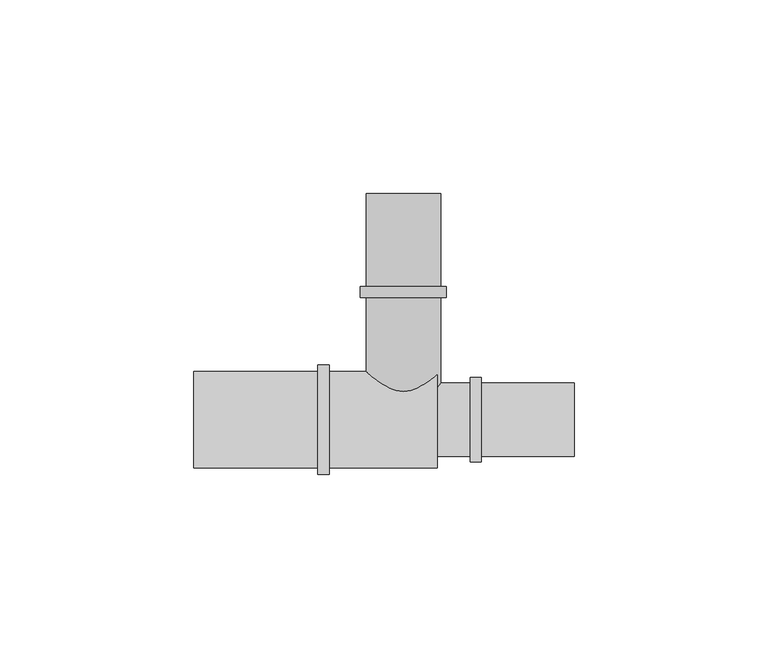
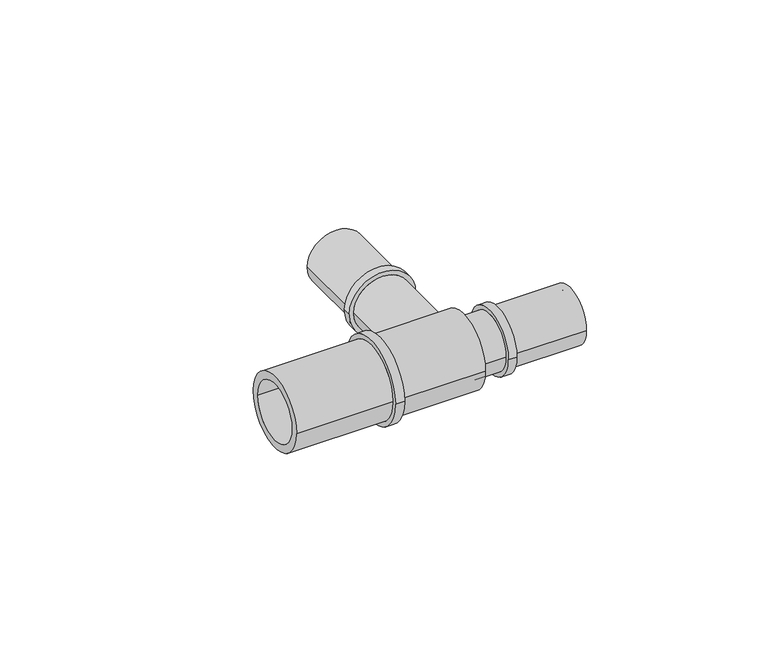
"""IFC4 building model written with IfcOpenShell, lengths in millimetres: pipe fitting geometry, FASTLOC_T-piece_LX : FSL T-Piece LX PL."""

from ifc_helpers import new_model, si_unit, frame, origin, place, context, project, spatial, polyline, circle_curve, source, transform, mapped, element, save
from ifc_brep_helpers import plane_surface, cylinder_surface, revolved_surface, advanced_brep


def pipe_fitting_291f5afb(model_context):
    return source(origin(), model_context, "Body", "AdvancedBrep", [
        advanced_brep(
        [(7.35, 58.4, 0.0), (-7.35, 58.4, 0.0), (-7.35, 0.0, 0.0), (7.35, 0.0, 0.0), (9.6, 0.0, 0.0), (-9.6, 0.0, 0.0), (-9.6, 31.6, 0.0), (9.6, 31.6, 0.0), (11.1, 31.6, 0.0), (-11.1, 31.6, 0.0), (-11.1, 34.4, 0.0), (11.1, 34.4, 0.0), (9.6, 34.4, 0.0), (-9.6, 34.4, 0.0), (-9.6, 58.4, 0.0), (9.6, 58.4, 0.0)],
        [
            (0, 1, circle_curve(frame((0.0, 58.4, 0.0), z_axis=(0.0, 1.0, 0.0), x_axis=(-1.0, 0.0, 0.0)), 7.35)),
            (1, 2),
            (2, 3, circle_curve(frame((0.0, 0.0, 0.0), z_axis=(0.0, -1.0, 0.0), x_axis=(-1.0, 0.0, 0.0)), 7.35)),
            (3, 0),
            (4, 5, circle_curve(frame((0.0, 0.0, 0.0), z_axis=(0.0, 1.0, 0.0), x_axis=(-1.0, 0.0, 0.0)), 9.6)),
            (5, 6),
            (6, 7, circle_curve(frame((0.0, 31.6, 0.0), z_axis=(0.0, -1.0, 0.0), x_axis=(-1.0, 0.0, 0.0)), 9.6)),
            (7, 4),
            (8, 9, circle_curve(frame((0.0, 31.6, 0.0), z_axis=(0.0, 1.0, 0.0), x_axis=(-1.0, 0.0, 0.0)), 11.1)),
            (9, 10),
            (10, 11, circle_curve(frame((0.0, 34.4, 0.0), z_axis=(0.0, -1.0, 0.0), x_axis=(-1.0, 0.0, 0.0)), 11.1)),
            (11, 8),
            (12, 13, circle_curve(frame((0.0, 34.4, 0.0), z_axis=(0.0, 1.0, 0.0), x_axis=(-1.0, 0.0, 0.0)), 9.6)),
            (13, 14),
            (14, 15, circle_curve(frame((0.0, 58.4, 0.0), z_axis=(0.0, -1.0, 0.0), x_axis=(-1.0, 0.0, 0.0)), 9.6)),
            (15, 12),
            (1, 0, circle_curve(frame((0.0, 58.4, 0.0), z_axis=(0.0, 1.0, 0.0), x_axis=(1.0, 0.0, 0.0)), 7.35)),
            (3, 2, circle_curve(frame((0.0, 0.0, 0.0), z_axis=(0.0, -1.0, 0.0), x_axis=(1.0, 0.0, 0.0)), 7.35)),
            (4, 5, circle_curve(frame((0.0, 0.0, 0.0), z_axis=(0.0, -1.0, 0.0), x_axis=(1.0, 0.0, 0.0)), 9.6)),
            (7, 6, circle_curve(frame((0.0, 31.6, 0.0), z_axis=(0.0, -1.0, 0.0), x_axis=(1.0, 0.0, 0.0)), 9.6)),
            (8, 9, circle_curve(frame((0.0, 31.6, 0.0), z_axis=(0.0, -1.0, 0.0), x_axis=(1.0, 0.0, 0.0)), 11.1)),
            (11, 10, circle_curve(frame((0.0, 34.4, 0.0), z_axis=(0.0, -1.0, 0.0), x_axis=(1.0, 0.0, 0.0)), 11.1)),
            (12, 13, circle_curve(frame((0.0, 34.4, 0.0), z_axis=(0.0, -1.0, 0.0), x_axis=(1.0, 0.0, 0.0)), 9.6)),
            (15, 14, circle_curve(frame((0.0, 58.4, 0.0), z_axis=(0.0, -1.0, 0.0), x_axis=(1.0, 0.0, 0.0)), 9.6)),
        ],
        [
            revolved_surface(polyline([(-7.35, 0.0, 0.0), (-7.35, 58.4, 0.0)]), (0.0, 0.0, 0.0), (0.0, -1.0, 0.0)),
            cylinder_surface(frame((0.0, 0.0, 0.0), z_axis=(0.0, -1.0, 0.0), x_axis=(-1.0, 0.0, 0.0)), 9.6),
            cylinder_surface(frame((0.0, 0.0, 0.0), z_axis=(0.0, -1.0, 0.0), x_axis=(-1.0, 0.0, 0.0)), 11.1),
            revolved_surface(polyline([(7.35, 0.0, 0.0), (7.35, 58.4, 0.0)]), (0.0, 0.0, 0.0), (0.0, -1.0, 0.0)),
            plane_surface(frame((0.0, 0.0, 0.0), z_axis=(0.0, -1.0, 0.0), x_axis=(1.0, 0.0, 0.0))),
            cylinder_surface(frame((0.0, 0.0, 0.0), z_axis=(0.0, -1.0, 0.0), x_axis=(1.0, 0.0, 0.0)), 9.6),
            plane_surface(frame((0.0, 31.6, 0.0), z_axis=(0.0, -1.0, 0.0), x_axis=(1.0, 0.0, 0.0))),
            cylinder_surface(frame((0.0, 0.0, 0.0), z_axis=(0.0, -1.0, 0.0), x_axis=(1.0, 0.0, 0.0)), 11.1),
            plane_surface(frame((0.0, 34.4, 0.0), z_axis=(0.0, 1.0, 0.0), x_axis=(1.0, 0.0, 0.0))),
            plane_surface(frame((0.0, 58.4, 0.0), z_axis=(0.0, 1.0, 0.0), x_axis=(1.0, 0.0, 0.0))),
        ],
        [
            (0, [[1, 2, 3, 4]]),
            (1, [[5, 6, 7, 8]]),
            (2, [[9, 10, 11, 12]]),
            (1, [[13, 14, 15, 16]]),
            (3, [[17, -4, 18, -2]]),
            (4, [[19, -5], [-18, -3]]),
            (5, [[-19, -8, 20, -6]]),
            (6, [[21, -9], [-20, -7]]),
            (7, [[-21, -12, 22, -10]]),
            (8, [[-22, -11], [23, -13]]),
            (5, [[-23, -16, 24, -14]]),
            (9, [[-24, -15], [-17, -1]]),
        ],
    ),
        advanced_brep(
        [(17.3, 9.45, 0.0), (17.3, -9.45, 0.0), (8.75, -9.45, 0.0), (8.75, 9.45, 0.0), (20.1, 10.95, 0.0), (20.1, -10.95, 0.0), (17.3, -10.95, 0.0), (17.3, 10.95, 0.0), (44.1, 9.45, 0.0), (44.1, -9.45, 0.0), (20.1, -9.45, 0.0), (20.1, 9.45, 0.0), (6.5, 7.2, 0.0), (6.5, -7.2, 0.0), (44.1, -7.2, 0.0), (44.1, 7.2, 0.0), (-54.1, 9.85, 0.0), (-54.1, -9.85, 0.0), (6.5, -9.85, 0.0), (6.5, 9.85, 0.0), (-22.1, 12.5, 0.0), (-22.1, -12.5, 0.0), (-54.1, -12.5, 0.0), (-54.1, 12.5, 0.0), (-19.1, 14.1, 0.0), (-19.1, -14.1, 0.0), (-22.1, -14.1, 0.0), (-22.1, 14.1, 0.0), (8.75, 12.5, 0.0), (8.75, -12.5, 0.0), (-19.1, -12.5, 0.0), (-19.1, 12.5, 0.0)],
        [
            (0, 1, circle_curve(frame((17.3, 0.0, 0.0), z_axis=(-1.0, 0.0, 0.0), x_axis=(0.0, -1.0, 0.0)), 9.45)),
            (1, 2),
            (2, 3, circle_curve(frame((8.75, 0.0, 0.0), z_axis=(1.0, 0.0, 0.0), x_axis=(0.0, -1.0, 0.0)), 9.45)),
            (3, 0),
            (4, 5, circle_curve(frame((20.1, 0.0, 0.0), z_axis=(-1.0, 0.0, 0.0), x_axis=(0.0, -1.0, 0.0)), 10.95)),
            (5, 6),
            (6, 7, circle_curve(frame((17.3, 0.0, 0.0), z_axis=(1.0, 0.0, 0.0), x_axis=(0.0, -1.0, 0.0)), 10.95)),
            (7, 4),
            (8, 9, circle_curve(frame((44.1, 0.0, 0.0), z_axis=(-1.0, 0.0, 0.0), x_axis=(0.0, -1.0, 0.0)), 9.45)),
            (9, 10),
            (10, 11, circle_curve(frame((20.1, 0.0, 0.0), z_axis=(1.0, 0.0, 0.0), x_axis=(0.0, -1.0, 0.0)), 9.45)),
            (11, 8),
            (12, 13, circle_curve(frame((6.5, 0.0, 0.0), z_axis=(-1.0, 0.0, 0.0), x_axis=(0.0, -1.0, 0.0)), 7.2)),
            (13, 14),
            (14, 15, circle_curve(frame((44.1, 0.0, 0.0), z_axis=(1.0, 0.0, 0.0), x_axis=(0.0, -1.0, 0.0)), 7.2)),
            (15, 12),
            (16, 17, circle_curve(frame((-54.1, 0.0, 0.0), z_axis=(-1.0, 0.0, 0.0), x_axis=(0.0, -1.0, 0.0)), 9.85)),
            (17, 18),
            (18, 19, circle_curve(frame((6.5, 0.0, 0.0), z_axis=(1.0, 0.0, 0.0), x_axis=(0.0, -1.0, 0.0)), 9.85)),
            (19, 16),
            (20, 21, circle_curve(frame((-22.1, 0.0, 0.0), z_axis=(-1.0, 0.0, 0.0), x_axis=(0.0, -1.0, 0.0)), 12.5)),
            (21, 22),
            (22, 23, circle_curve(frame((-54.1, 0.0, 0.0), z_axis=(1.0, 0.0, 0.0), x_axis=(0.0, -1.0, 0.0)), 12.5)),
            (23, 20),
            (24, 25, circle_curve(frame((-19.1, 0.0, 0.0), z_axis=(-1.0, 0.0, 0.0), x_axis=(0.0, -1.0, 0.0)), 14.1)),
            (25, 26),
            (26, 27, circle_curve(frame((-22.1, 0.0, 0.0), z_axis=(1.0, 0.0, 0.0), x_axis=(0.0, -1.0, 0.0)), 14.1)),
            (27, 24),
            (28, 29, circle_curve(frame((8.75, 0.0, 0.0), z_axis=(-1.0, 0.0, 0.0), x_axis=(0.0, -1.0, 0.0)), 12.5)),
            (29, 30),
            (30, 31, circle_curve(frame((-19.1, 0.0, 0.0), z_axis=(1.0, 0.0, 0.0), x_axis=(0.0, -1.0, 0.0)), 12.5)),
            (31, 28),
            (28, 29, circle_curve(frame((8.75, 0.0, 0.0), z_axis=(1.0, 0.0, 0.0), x_axis=(0.0, 1.0, 0.0)), 12.5)),
            (2, 3, circle_curve(frame((8.75, 0.0, 0.0), z_axis=(-1.0, 0.0, 0.0), x_axis=(0.0, 1.0, 0.0)), 9.45)),
            (1, 0, circle_curve(frame((17.3, 0.0, 0.0), z_axis=(-1.0, 0.0, 0.0), x_axis=(0.0, 1.0, 0.0)), 9.45)),
            (6, 7, circle_curve(frame((17.3, 0.0, 0.0), z_axis=(-1.0, 0.0, 0.0), x_axis=(0.0, 1.0, 0.0)), 10.95)),
            (5, 4, circle_curve(frame((20.1, 0.0, 0.0), z_axis=(-1.0, 0.0, 0.0), x_axis=(0.0, 1.0, 0.0)), 10.95)),
            (10, 11, circle_curve(frame((20.1, 0.0, 0.0), z_axis=(-1.0, 0.0, 0.0), x_axis=(0.0, 1.0, 0.0)), 9.45)),
            (9, 8, circle_curve(frame((44.1, 0.0, 0.0), z_axis=(-1.0, 0.0, 0.0), x_axis=(0.0, 1.0, 0.0)), 9.45)),
            (14, 15, circle_curve(frame((44.1, 0.0, 0.0), z_axis=(-1.0, 0.0, 0.0), x_axis=(0.0, 1.0, 0.0)), 7.2)),
            (13, 12, circle_curve(frame((6.5, 0.0, 0.0), z_axis=(-1.0, 0.0, 0.0), x_axis=(0.0, 1.0, 0.0)), 7.2)),
            (18, 19, circle_curve(frame((6.5, 0.0, 0.0), z_axis=(-1.0, 0.0, 0.0), x_axis=(0.0, 1.0, 0.0)), 9.85)),
            (17, 16, circle_curve(frame((-54.1, 0.0, 0.0), z_axis=(-1.0, 0.0, 0.0), x_axis=(0.0, 1.0, 0.0)), 9.85)),
            (22, 23, circle_curve(frame((-54.1, 0.0, 0.0), z_axis=(-1.0, 0.0, 0.0), x_axis=(0.0, 1.0, 0.0)), 12.5)),
            (21, 20, circle_curve(frame((-22.1, 0.0, 0.0), z_axis=(-1.0, 0.0, 0.0), x_axis=(0.0, 1.0, 0.0)), 12.5)),
            (26, 27, circle_curve(frame((-22.1, 0.0, 0.0), z_axis=(-1.0, 0.0, 0.0), x_axis=(0.0, 1.0, 0.0)), 14.1)),
            (25, 24, circle_curve(frame((-19.1, 0.0, 0.0), z_axis=(-1.0, 0.0, 0.0), x_axis=(0.0, 1.0, 0.0)), 14.1)),
            (30, 31, circle_curve(frame((-19.1, 0.0, 0.0), z_axis=(-1.0, 0.0, 0.0), x_axis=(0.0, 1.0, 0.0)), 12.5)),
        ],
        [
            cylinder_surface(frame((0.0, 0.0, 0.0), z_axis=(1.0, 0.0, 0.0), x_axis=(0.0, -1.0, 0.0)), 9.45),
            cylinder_surface(frame((0.0, 0.0, 0.0), z_axis=(1.0, 0.0, 0.0), x_axis=(0.0, -1.0, 0.0)), 10.95),
            revolved_surface(polyline([(44.1, -7.2, 0.0), (6.5, -7.2, 0.0)]), (0.0, 0.0, 0.0), (1.0, 0.0, 0.0)),
            revolved_surface(polyline([(6.5, -9.85, 0.0), (-54.1, -9.85, 0.0)]), (0.0, 0.0, 0.0), (1.0, 0.0, 0.0)),
            cylinder_surface(frame((0.0, 0.0, 0.0), z_axis=(1.0, 0.0, 0.0), x_axis=(0.0, -1.0, 0.0)), 12.5),
            cylinder_surface(frame((0.0, 0.0, 0.0), z_axis=(1.0, 0.0, 0.0), x_axis=(0.0, -1.0, 0.0)), 14.1),
            plane_surface(frame((8.75, 0.0, 0.0), z_axis=(1.0, 0.0, 0.0), x_axis=(0.0, 1.0, 0.0))),
            cylinder_surface(frame((0.0, 0.0, 0.0), z_axis=(1.0, 0.0, 0.0), x_axis=(0.0, 1.0, 0.0)), 9.45),
            plane_surface(frame((17.3, 0.0, 0.0), z_axis=(-1.0, 0.0, 0.0), x_axis=(0.0, 1.0, 0.0))),
            cylinder_surface(frame((0.0, 0.0, 0.0), z_axis=(1.0, 0.0, 0.0), x_axis=(0.0, 1.0, 0.0)), 10.95),
            plane_surface(frame((20.1, 0.0, 0.0), z_axis=(1.0, 0.0, 0.0), x_axis=(0.0, 1.0, 0.0))),
            plane_surface(frame((44.1, 0.0, 0.0), z_axis=(1.0, 0.0, 0.0), x_axis=(0.0, 1.0, 0.0))),
            revolved_surface(polyline([(44.1, 7.2, 0.0), (6.5, 7.2, 0.0)]), (0.0, 0.0, 0.0), (1.0, 0.0, 0.0)),
            plane_surface(frame((6.5, 0.0, 0.0), z_axis=(-1.0, 0.0, 0.0), x_axis=(0.0, 1.0, 0.0))),
            revolved_surface(polyline([(6.5, 9.85, 0.0), (-54.1, 9.85, 0.0)]), (0.0, 0.0, 0.0), (1.0, 0.0, 0.0)),
            plane_surface(frame((-54.1, 0.0, 0.0), z_axis=(-1.0, 0.0, 0.0), x_axis=(0.0, 1.0, 0.0))),
            cylinder_surface(frame((0.0, 0.0, 0.0), z_axis=(1.0, 0.0, 0.0), x_axis=(0.0, 1.0, 0.0)), 12.5),
            plane_surface(frame((-22.1, 0.0, 0.0), z_axis=(-1.0, 0.0, 0.0), x_axis=(0.0, 1.0, 0.0))),
            cylinder_surface(frame((0.0, 0.0, 0.0), z_axis=(1.0, 0.0, 0.0), x_axis=(0.0, 1.0, 0.0)), 14.1),
            plane_surface(frame((-19.1, 0.0, 0.0), z_axis=(1.0, 0.0, 0.0), x_axis=(0.0, 1.0, 0.0))),
        ],
        [
            (0, [[1, 2, 3, 4]]),
            (1, [[5, 6, 7, 8]]),
            (0, [[9, 10, 11, 12]]),
            (2, [[13, 14, 15, 16]]),
            (3, [[17, 18, 19, 20]]),
            (4, [[21, 22, 23, 24]]),
            (5, [[25, 26, 27, 28]]),
            (4, [[29, 30, 31, 32]]),
            (6, [[33, -29], [34, -3]]),
            (7, [[35, -4, -34, -2]]),
            (8, [[36, -7], [-35, -1]]),
            (9, [[37, -8, -36, -6]]),
            (10, [[-37, -5], [38, -11]]),
            (7, [[39, -12, -38, -10]]),
            (11, [[-39, -9], [40, -15]]),
            (12, [[41, -16, -40, -14]]),
            (13, [[42, -19], [-41, -13]]),
            (14, [[43, -20, -42, -18]]),
            (15, [[44, -23], [-43, -17]]),
            (16, [[45, -24, -44, -22]]),
            (17, [[46, -27], [-45, -21]]),
            (18, [[47, -28, -46, -26]]),
            (19, [[-47, -25], [48, -31]]),
            (16, [[-33, -32, -48, -30]]),
        ],
    ),
    ])


if __name__ == "__main__":
    model = new_model("IFC4")
    model_context = context("Model", 3, world=origin())
    ifc_project = project(units=[si_unit("LENGTHUNIT", "METRE", prefix="MILLI")], contexts=[model_context])
    site = spatial("IfcSite", under=ifc_project)
    building = spatial("IfcBuilding", under=site)
    placement = place(None, origin())
    pipe_fitting_shape = pipe_fitting_291f5afb(model_context)
    element("IfcPipeFitting", 1, ObjectType="FASTLOC_T-piece_LX : FSL T-Piece LX PL", at=placement, inside=building, context=model_context, shape_type="MappedRepresentation", body=[
        mapped(pipe_fitting_shape, transform((0.0, 0.0, 0.0), x_axis=(1.0, 0.0, 0.0), y_axis=(0.0, 1.0, 0.0), z_axis=(0.0, 0.0, 1.0))),
    ])
    save(model, "model.ifc")
